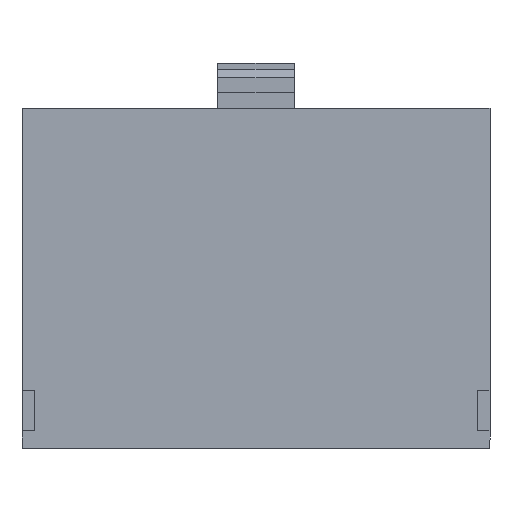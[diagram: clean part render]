
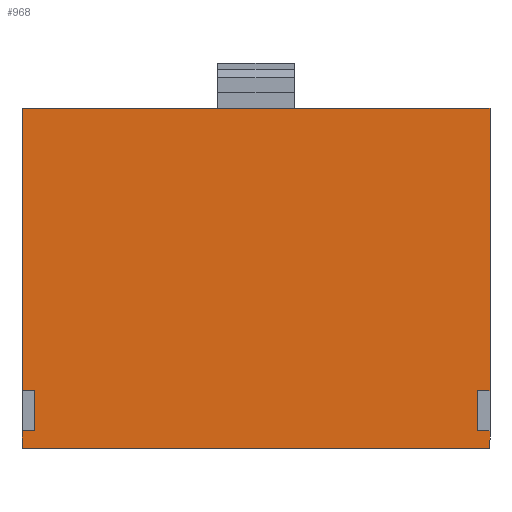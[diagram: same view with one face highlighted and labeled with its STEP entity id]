
A CAD part, front view. The second image highlights one B-rep face of the part: STEP entity #968.
In plain terms, the highlighted planar face has unit normal (0, -1, 0).
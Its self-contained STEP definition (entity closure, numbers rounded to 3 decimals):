
#13 = EDGE_LOOP ( 'NONE', ( #590, #337, #712, #497, #815, #594, #963, #431, #731, #1024, #1008, #988 ) ) ;
#14 = VERTEX_POINT ( 'NONE', #1040 ) ;
#24 = VECTOR ( 'NONE', #419, 1000. ) ;
#26 = VERTEX_POINT ( 'NONE', #878 ) ;
#34 = LINE ( 'NONE', #580, #24 ) ;
#42 = CARTESIAN_POINT ( 'NONE',  ( -28.9, 0., -18.8 ) ) ;
#101 = LINE ( 'NONE', #525, #500 ) ;
#116 = CARTESIAN_POINT ( 'NONE',  ( 28.9, 0., -21. ) ) ;
#119 = CARTESIAN_POINT ( 'NONE',  ( 27.4, 0., -13.85 ) ) ;
#130 = DIRECTION ( 'NONE',  ( 0., 0., 1. ) ) ;
#154 = LINE ( 'NONE', #511, #166 ) ;
#166 = VECTOR ( 'NONE', #504, 1000. ) ;
#175 = CARTESIAN_POINT ( 'NONE',  ( -28.9, 0., -21. ) ) ;
#189 = DIRECTION ( 'NONE',  ( 1., 0., 0. ) ) ;
#203 = CARTESIAN_POINT ( 'NONE',  ( -28.9, 0., 21. ) ) ;
#211 = DIRECTION ( 'NONE',  ( -1., 0., 0. ) ) ;
#226 = CARTESIAN_POINT ( 'NONE',  ( -28.9, 0., -21. ) ) ;
#252 = VECTOR ( 'NONE', #478, 1000. ) ;
#299 = VECTOR ( 'NONE', #130, 1000. ) ;
#310 = LINE ( 'NONE', #490, #252 ) ;
#337 = ORIENTED_EDGE ( 'NONE', *, *, #994, .F. ) ;
#364 = DIRECTION ( 'NONE',  ( 1., 0., 0. ) ) ;
#372 = CARTESIAN_POINT ( 'NONE',  ( 27.4, 0., -18.8 ) ) ;
#378 = DIRECTION ( 'NONE',  ( 0., 0., 1. ) ) ;
#387 = VECTOR ( 'NONE', #211, 1000. ) ;
#388 = CARTESIAN_POINT ( 'NONE',  ( -27.4, 0., -13.85 ) ) ;
#399 = LINE ( 'NONE', #708, #461 ) ;
#404 = CARTESIAN_POINT ( 'NONE',  ( 28.9, 0., -18.8 ) ) ;
#419 = DIRECTION ( 'NONE',  ( 0., 0., 1. ) ) ;
#421 = DIRECTION ( 'NONE',  ( 0., 0., -1. ) ) ;
#431 = ORIENTED_EDGE ( 'NONE', *, *, #866, .F. ) ;
#435 = CARTESIAN_POINT ( 'NONE',  ( 27.4, 0., -18.8 ) ) ;
#461 = VECTOR ( 'NONE', #711, 1000. ) ;
#478 = DIRECTION ( 'NONE',  ( -1., 0., 0. ) ) ;
#490 = CARTESIAN_POINT ( 'NONE',  ( -27.4, 0., -18.8 ) ) ;
#497 = ORIENTED_EDGE ( 'NONE', *, *, #1094, .F. ) ;
#500 = VECTOR ( 'NONE', #421, 1000. ) ;
#504 = DIRECTION ( 'NONE',  ( 0., 0., 1. ) ) ;
#511 = CARTESIAN_POINT ( 'NONE',  ( 27.4, 0., -13.85 ) ) ;
#525 = CARTESIAN_POINT ( 'NONE',  ( 28.9, 0., -21. ) ) ;
#527 = CARTESIAN_POINT ( 'NONE',  ( -28.9, 0., -21. ) ) ;
#568 = VECTOR ( 'NONE', #189, 1000. ) ;
#579 = LINE ( 'NONE', #175, #299 ) ;
#580 = CARTESIAN_POINT ( 'NONE',  ( -28.9, 0., -21. ) ) ;
#581 = CARTESIAN_POINT ( 'NONE',  ( -28.9, 0., 21. ) ) ;
#583 = VECTOR ( 'NONE', #378, 1000. ) ;
#590 = ORIENTED_EDGE ( 'NONE', *, *, #967, .T. ) ;
#592 = EDGE_CURVE ( 'NONE', #965, #694, #310, .T. ) ;
#594 = ORIENTED_EDGE ( 'NONE', *, *, #918, .F. ) ;
#629 = LINE ( 'NONE', #388, #583 ) ;
#654 = LINE ( 'NONE', #372, #726 ) ;
#676 = VERTEX_POINT ( 'NONE', #116 ) ;
#694 = VERTEX_POINT ( 'NONE', #42 ) ;
#702 = VERTEX_POINT ( 'NONE', #119 ) ;
#708 = CARTESIAN_POINT ( 'NONE',  ( 28.9, 0., -21. ) ) ;
#711 = DIRECTION ( 'NONE',  ( 0., 0., -1. ) ) ;
#712 = ORIENTED_EDGE ( 'NONE', *, *, #931, .F. ) ;
#717 = LINE ( 'NONE', #226, #387 ) ;
#718 = LINE ( 'NONE', #913, #745 ) ;
#719 = CARTESIAN_POINT ( 'NONE',  ( -28.9, 0., -13.85 ) ) ;
#725 = FACE_OUTER_BOUND ( 'NONE', #13, .T. ) ;
#726 = VECTOR ( 'NONE', #364, 1000. ) ;
#731 = ORIENTED_EDGE ( 'NONE', *, *, #930, .F. ) ;
#745 = VECTOR ( 'NONE', #903, 1000. ) ;
#753 = VERTEX_POINT ( 'NONE', #1059 ) ;
#777 = LINE ( 'NONE', #203, #568 ) ;
#806 = AXIS2_PLACEMENT_3D ( 'NONE', #964, #948, #936 ) ;
#815 = ORIENTED_EDGE ( 'NONE', *, *, #969, .F. ) ;
#838 = VECTOR ( 'NONE', #983, 1000. ) ;
#866 = EDGE_CURVE ( 'NONE', #1025, #694, #34, .T. ) ;
#878 = CARTESIAN_POINT ( 'NONE',  ( 28.9, 0., 21. ) ) ;
#903 = DIRECTION ( 'NONE',  ( -1., 0., 0. ) ) ;
#911 = EDGE_CURVE ( 'NONE', #1045, #702, #154, .T. ) ;
#913 = CARTESIAN_POINT ( 'NONE',  ( -27.4, 0., -13.85 ) ) ;
#917 = EDGE_CURVE ( 'NONE', #1049, #676, #101, .T. ) ;
#918 = EDGE_CURVE ( 'NONE', #965, #14, #629, .T. ) ;
#919 = EDGE_CURVE ( 'NONE', #1045, #1049, #654, .T. ) ;
#930 = EDGE_CURVE ( 'NONE', #676, #1025, #717, .T. ) ;
#931 = EDGE_CURVE ( 'NONE', #1010, #26, #777, .T. ) ;
#936 = DIRECTION ( 'NONE',  ( 0., 0., 1. ) ) ;
#948 = DIRECTION ( 'NONE',  ( 0., 1., 0. ) ) ;
#963 = ORIENTED_EDGE ( 'NONE', *, *, #592, .T. ) ;
#964 = CARTESIAN_POINT ( 'NONE',  ( 0., 0., 0. ) ) ;
#965 = VERTEX_POINT ( 'NONE', #1026 ) ;
#967 = EDGE_CURVE ( 'NONE', #702, #753, #1096, .T. ) ;
#968 = ADVANCED_FACE ( 'NONE', ( #725 ), #973, .F. ) ;
#969 = EDGE_CURVE ( 'NONE', #14, #991, #718, .T. ) ;
#973 = PLANE ( 'NONE',  #806 ) ;
#983 = DIRECTION ( 'NONE',  ( 1., 0., 0. ) ) ;
#988 = ORIENTED_EDGE ( 'NONE', *, *, #911, .T. ) ;
#991 = VERTEX_POINT ( 'NONE', #719 ) ;
#994 = EDGE_CURVE ( 'NONE', #26, #753, #399, .T. ) ;
#1008 = ORIENTED_EDGE ( 'NONE', *, *, #919, .F. ) ;
#1010 = VERTEX_POINT ( 'NONE', #581 ) ;
#1024 = ORIENTED_EDGE ( 'NONE', *, *, #917, .F. ) ;
#1025 = VERTEX_POINT ( 'NONE', #527 ) ;
#1026 = CARTESIAN_POINT ( 'NONE',  ( -27.4, 0., -18.8 ) ) ;
#1040 = CARTESIAN_POINT ( 'NONE',  ( -27.4, 0., -13.85 ) ) ;
#1045 = VERTEX_POINT ( 'NONE', #435 ) ;
#1047 = CARTESIAN_POINT ( 'NONE',  ( 27.4, 0., -13.85 ) ) ;
#1049 = VERTEX_POINT ( 'NONE', #404 ) ;
#1059 = CARTESIAN_POINT ( 'NONE',  ( 28.9, 0., -13.85 ) ) ;
#1094 = EDGE_CURVE ( 'NONE', #991, #1010, #579, .T. ) ;
#1096 = LINE ( 'NONE', #1047, #838 ) ;
